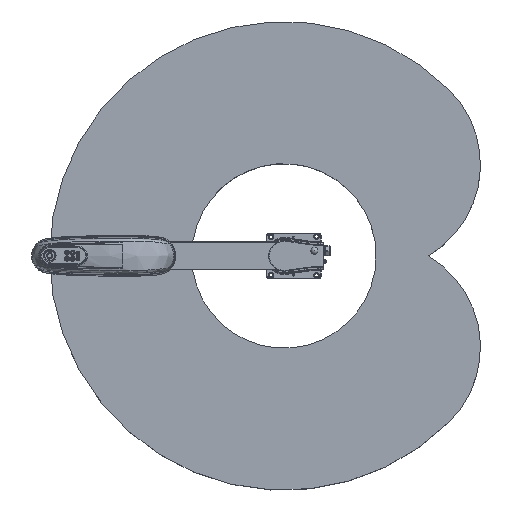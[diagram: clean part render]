
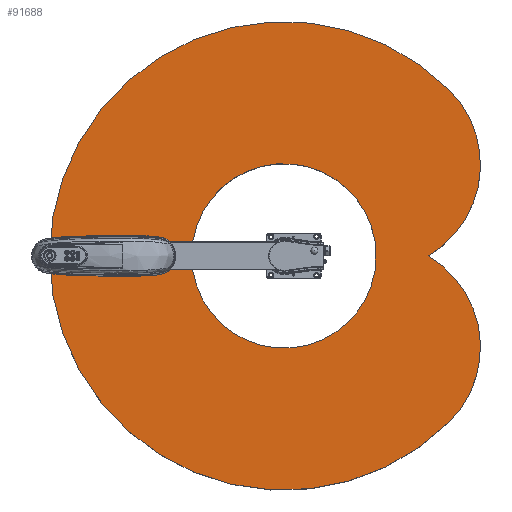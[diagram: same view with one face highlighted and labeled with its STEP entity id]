
A CAD part, top view. The second image highlights one B-rep face of the part: STEP entity #91688.
In plain terms, the highlighted planar face has unit normal (0, 0, 1) as drawn and (0, 1, 0) by its records, which use the part's own axes.
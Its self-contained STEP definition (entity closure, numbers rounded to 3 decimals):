
#28283 = EDGE_CURVE ( 'NONE', #94801, #94804, #89520, .T. ) ;
#28311 = EDGE_CURVE ( 'NONE', #94792, #94809, #89583, .T. ) ;
#28314 = EDGE_CURVE ( 'NONE', #94813, #94792, #89590, .T. ) ;
#28360 = EDGE_CURVE ( 'NONE', #94811, #94813, #89799, .T. ) ;
#28363 = EDGE_CURVE ( 'NONE', #94818, #94801, #145589, .T. ) ;
#28367 = EDGE_CURVE ( 'NONE', #94809, #94811, #89793, .T. ) ;
#28372 = EDGE_CURVE ( 'NONE', #94804, #94818, #89835, .T. ) ;
#56382 = CARTESIAN_POINT ( 'NONE',  ( 0., 400., -393.678 ) ) ;
#56413 = CARTESIAN_POINT ( 'NONE',  ( -707.107, 400., 707.107 ) ) ;
#56427 = CARTESIAN_POINT ( 'NONE',  ( 0., 400., 615.293 ) ) ;
#56442 = CARTESIAN_POINT ( 'NONE',  ( 707.107, 400., 707.107 ) ) ;
#56469 = CARTESIAN_POINT ( 'NONE',  ( -61.091, 400., 388.909 ) ) ;
#89503 = AXIS2_PLACEMENT_3D ( 'NONE', #145209, #145211, #145213 ) ;
#89520 = CIRCLE ( 'NONE', #89503, 393.678 ) ;
#89583 = CIRCLE ( 'NONE', #89587, 1000. ) ;
#89587 = AXIS2_PLACEMENT_3D ( 'NONE', #145390, #145392, #145394 ) ;
#89590 = CIRCLE ( 'NONE', #89600, 1000. ) ;
#89600 = AXIS2_PLACEMENT_3D ( 'NONE', #145404, #145406, #145408 ) ;
#89793 = CIRCLE ( 'NONE', #89828, 450. ) ;
#89799 = CIRCLE ( 'NONE', #89806, 450. ) ;
#89802 = VECTOR ( 'NONE', #145632, 1000. ) ;
#89806 = AXIS2_PLACEMENT_3D ( 'NONE', #145622, #145624, #145627 ) ;
#89828 = AXIS2_PLACEMENT_3D ( 'NONE', #145653, #145655, #145658 ) ;
#89835 = CIRCLE ( 'NONE', #89863, 393.678 ) ;
#89863 = AXIS2_PLACEMENT_3D ( 'NONE', #145688, #145691, #145693 ) ;
#91688 = ADVANCED_FACE ( 'NONE', ( #106129, #106131 ), #106132, .T. ) ;
#94792 = VERTEX_POINT ( 'NONE', #159771 ) ;
#94801 = VERTEX_POINT ( 'NONE', #159923 ) ;
#94804 = VERTEX_POINT ( 'NONE', #56382 ) ;
#94809 = VERTEX_POINT ( 'NONE', #56413 ) ;
#94811 = VERTEX_POINT ( 'NONE', #56427 ) ;
#94813 = VERTEX_POINT ( 'NONE', #56442 ) ;
#94818 = VERTEX_POINT ( 'NONE', #56469 ) ;
#101393 = ORIENTED_EDGE ( 'NONE', *, *, #28283, .F. ) ;
#101395 = ORIENTED_EDGE ( 'NONE', *, *, #28372, .F. ) ;
#101398 = ORIENTED_EDGE ( 'NONE', *, *, #28363, .F. ) ;
#101401 = ORIENTED_EDGE ( 'NONE', *, *, #28367, .T. ) ;
#101404 = ORIENTED_EDGE ( 'NONE', *, *, #28311, .T. ) ;
#101407 = ORIENTED_EDGE ( 'NONE', *, *, #28314, .T. ) ;
#101410 = ORIENTED_EDGE ( 'NONE', *, *, #28360, .T. ) ;
#106126 = DIRECTION ( 'NONE',  ( 0., 1., 0. ) ) ;
#106128 = CARTESIAN_POINT ( 'NONE',  ( 194.454, 400., 194.454 ) ) ;
#106129 = FACE_OUTER_BOUND ( 'NONE', #125151, .T. ) ;
#106131 = FACE_BOUND ( 'NONE', #125154, .T. ) ;
#106132 = PLANE ( 'NONE',  #181400 ) ;
#106134 = DIRECTION ( 'NONE',  ( 0., 0., 1. ) ) ;
#125151 = EDGE_LOOP ( 'NONE', ( #101410, #101407, #101404, #101401 ) ) ;
#125154 = EDGE_LOOP ( 'NONE', ( #101398, #101395, #101393 ) ) ;
#145209 = CARTESIAN_POINT ( 'NONE',  ( 0., 400., 0. ) ) ;
#145211 = DIRECTION ( 'NONE',  ( 0., 1., 0. ) ) ;
#145213 = DIRECTION ( 'NONE',  ( 0., 0., 1. ) ) ;
#145390 = CARTESIAN_POINT ( 'NONE',  ( 0., 400., 0. ) ) ;
#145392 = DIRECTION ( 'NONE',  ( 0., 1., 0. ) ) ;
#145394 = DIRECTION ( 'NONE',  ( 0., 0., 1. ) ) ;
#145404 = CARTESIAN_POINT ( 'NONE',  ( 0., 400., 0. ) ) ;
#145406 = DIRECTION ( 'NONE',  ( 0., 1., 0. ) ) ;
#145408 = DIRECTION ( 'NONE',  ( 0., 0., 1. ) ) ;
#145573 = CARTESIAN_POINT ( 'NONE',  ( 61.091, 400., 388.909 ) ) ;
#145589 = LINE ( 'NONE', #145573, #89802 ) ;
#145622 = CARTESIAN_POINT ( 'NONE',  ( 388.909, 400., 388.909 ) ) ;
#145624 = DIRECTION ( 'NONE',  ( 0., 1., 0. ) ) ;
#145627 = DIRECTION ( 'NONE',  ( 0., 0., 1. ) ) ;
#145632 = DIRECTION ( 'NONE',  ( 1., 0., 0. ) ) ;
#145653 = CARTESIAN_POINT ( 'NONE',  ( -388.909, 400., 388.909 ) ) ;
#145655 = DIRECTION ( 'NONE',  ( 0., 1., 0. ) ) ;
#145658 = DIRECTION ( 'NONE',  ( 0., 0., 1. ) ) ;
#145688 = CARTESIAN_POINT ( 'NONE',  ( 0., 400., 0. ) ) ;
#145691 = DIRECTION ( 'NONE',  ( 0., 1., 0. ) ) ;
#145693 = DIRECTION ( 'NONE',  ( 0., 0., 1. ) ) ;
#159771 = CARTESIAN_POINT ( 'NONE',  ( 0., 400., -1000. ) ) ;
#159923 = CARTESIAN_POINT ( 'NONE',  ( 61.091, 400., 388.909 ) ) ;
#181400 = AXIS2_PLACEMENT_3D ( 'NONE', #106128, #106126, #106134 ) ;
